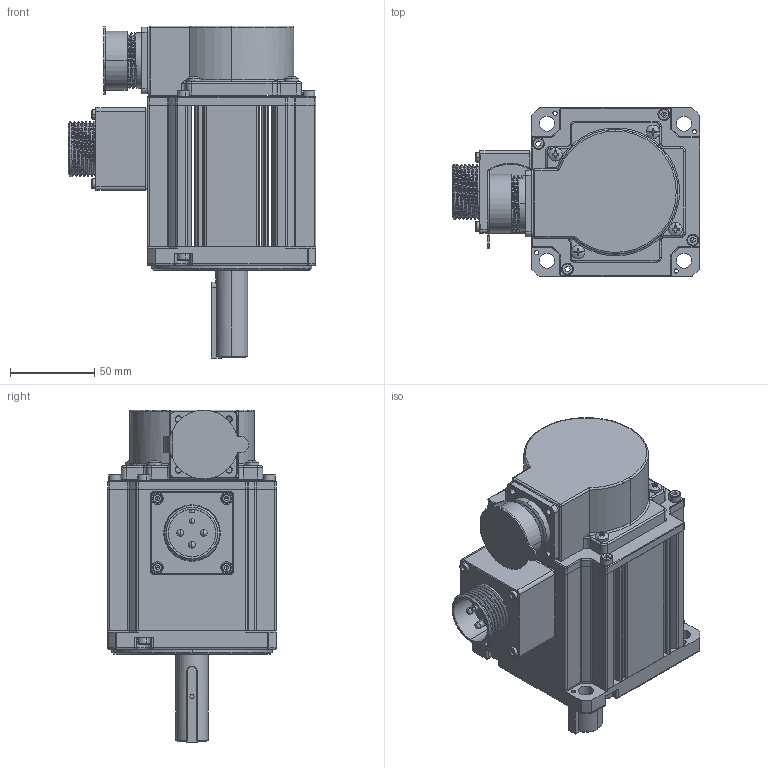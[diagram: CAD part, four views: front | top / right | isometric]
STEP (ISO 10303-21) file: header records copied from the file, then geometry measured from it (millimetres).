
FILE_DESCRIPTION (( 'STEP AP203' ), '1' );
FILE_NAME ('WF100ST-M03230GYA5-B1軞蚾-YD28粣19.STEP', '2024-01-30T08:52:04', ( 'lvbing' ), ( 'WG' ), 'SwSTEP 2.0', 'SolidWorks 2018', '' );
FILE_SCHEMA (( 'CONFIG_CONTROL_DESIGN' ));
Length unit declared in the file: millimetre
Products named in the file (2): WF100ST-M03230GYA5-B1軞蚾-YD28粣19
Bounding box: 147 x 100 x 197 mm (x, y, z)
Surface area: 115232.4 mm2 (no closed solid volume)
Topology: 0 solids, 50 shells, 979 faces, 2788 edges, 1819 vertices
Faces by surface type: cylinder 419, plane 330, torus 138, cone 43, bspline 31, sphere 18
Entity records: 34795 total; most frequent: CARTESIAN_POINT 9298, DIRECTION 5717, ORIENTED_EDGE 4725, EDGE_CURVE 2749, AXIS2_PLACEMENT_3D 2204, VERTEX_POINT 1811, VECTOR 1309, LINE 1309
